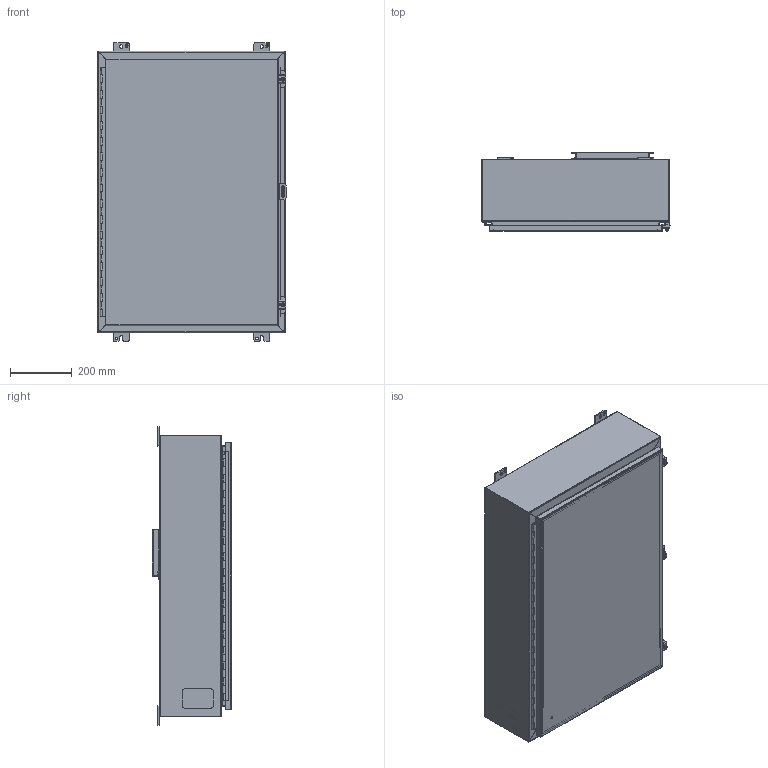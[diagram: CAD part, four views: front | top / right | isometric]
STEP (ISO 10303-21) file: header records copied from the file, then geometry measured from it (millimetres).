
FILE_DESCRIPTION(/* description */ ('Unknown'),/* implementation_level */ '2;1');
FILE_NAME(/* name */ '1418L8LP',/* time_stamp */ '2026-02-20T16:34:09-05:00',/* author */ ('Unknown'),/* organization */ ('Unknown'),/* preprocessor_version */ 'ST-DEVELOPER v18.104',/* originating_system */ 'Solid Edge',/* authorisation */ 'Unknown');
FILE_SCHEMA (('AUTOMOTIVE_DESIGN {1 0 10303 214 3 1 1}'));
Length unit declared in the file: millimetre
Products named in the file (30): 1418L8LP; STD26094; STD21878; COM42780; COM40153-1; KIT90519; WAF25059; NTS166105; COM71780-20; COM40153-2; PNT11078; HNG10620-32C; COM70219_oa_0; COM48445; FET07710; HNG10620-32B; AKT90223; SPR20265; SCC19011; WAF25035; COM42667; HNG10620-32P; BUL10020; QLB30109; PKT99; KIT90256; LAB30005; NTS165305; NTS16535
Assembly tree (41 placements, depth 3):
  1418L8LP
    STD26094  x6
    STD21878
    COM42780  x2
    COM40153-1
    KIT90519
      WAF25059
      NTS166105
    COM71780-20
      COM40153-2
      COM71780-20
      STD21878
      PNT11078
      HNG10620-32C
      COM70219_oa_0
    COM48445
    FET07710  x4
    HNG10620-32B
    AKT90223  x2
      SPR20265
      SCC19011
      WAF25035
      COM42667
    HNG10620-32P
    BUL10020
    QLB30109
    PKT99
    KIT90256
      LAB30005
      NTS165305
      NTS16535
    PNT11078
Bounding box: 612.77 x 257.18 x 971.55 mm (x, y, z)
Volume: 3913786.3 mm3; surface area: 4218550.8 mm2
Topology: 36 solids, 37 shells, 1275 faces, 3253 edges, 2090 vertices
Faces by surface type: plane 842, cylinder 328, bspline 49, cone 28, torus 26, sphere 2
Full cylindrical faces by diameter (mm): 3.175 x1, 4.763 x1, 4.976 x1, 5.41 x2, 6.198 x2, 6.35 x3, 6.731 x2, 7.137 x2, 7.805 x1, 7.938 x4, 8.382 x6, 9.525 x6, 9.906 x2, 11.113 x4, 11.303 x1, 12.7 x2, 16.51 x6, 25.4 x1, 88.9 x1
Entity records: 31965 total; most frequent: CARTESIAN_POINT 8642, ORIENTED_EDGE 4688, DIRECTION 4433, EDGE_CURVE 2344, LINE 1617, VECTOR 1617, VERTEX_POINT 1513, AXIS2_PLACEMENT_3D 1408
